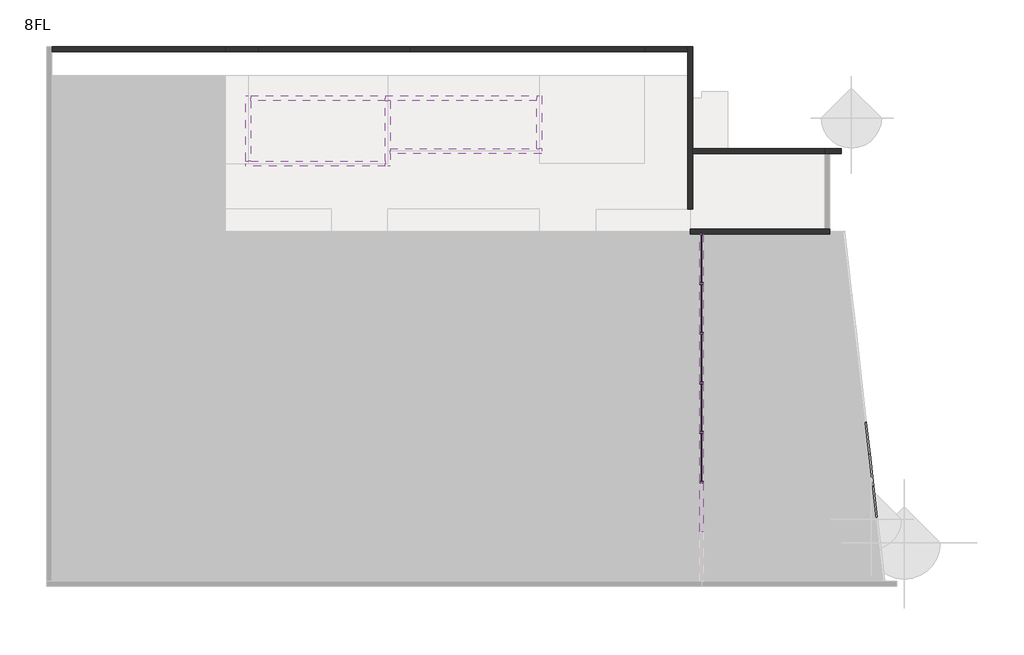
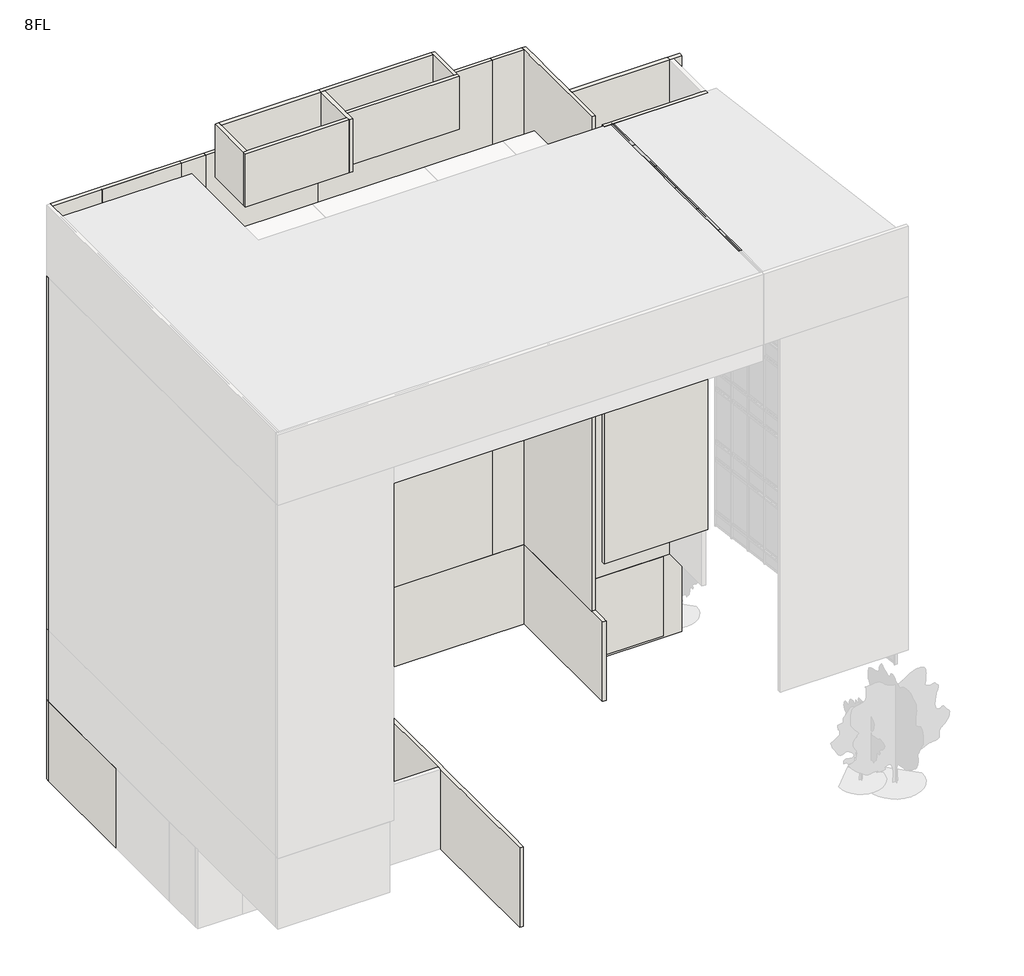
# One storey, part 2 of 4: 57 members, 26 walls, 17 plates.
"""IFC4 building model written with IfcOpenShell, lengths in millimetres."""

from ifc_helpers import new_model, si_unit, frame, origin, origin_with_axes, place, context, project, spatial, polyline, outline, extrude, faceted_brep, transform, mapped, element, save
from components import member_100x150_b54df6fd, member_25x150_6388a252, member_25x150_64c6ad17, member_25x150_181524d6, member_70x150_6224b0b0, member_70x150_d0359e29, member_70x150_07c10103, member_70x150_ebb47e88, member_70x150_8bab1bdf, plate_a5bdaeee, plate_4cdf4cda, plate_b29589f3, plate_a40ee780, plate_46ec0250, plate_b89069fe

model = new_model("IFC4")

# Units and contexts
model_context = context("Model", 3, world=origin())
ifc_project = project(units=[si_unit("LENGTHUNIT", "METRE", prefix="MILLI")], contexts=[model_context])

# Site, building, storey
site = spatial("IfcSite", under=ifc_project)
building = spatial("IfcBuilding", under=site)
storey = spatial("IfcBuildingStorey", under=building, Name="8FL", Elevation=28600.0)

# Members
placement = place(None, origin())
member_100x150_shape = member_100x150_b54df6fd(model_context)
element("IfcMember", 1, ObjectType="長方形のマリオン : 100x150", at=placement, inside=storey, context=model_context, shape_type="MappedRepresentation", body=[
    mapped(member_100x150_shape, transform((3817.2842702, 340.5959896, 24600.0), x_axis=(0.0, 0.0, 1.0), y_axis=(0.9935326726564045, 0.11354659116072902, 0.0), z_axis=(-0.11354659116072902, 0.9935326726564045, 0.0))),
])
element("IfcMember", 2, ObjectType="長方形のマリオン : 100x150", at=placement, inside=storey, context=model_context, shape_type="MappedRepresentation", body=[
    mapped(member_100x150_shape, transform((3672.8686858, 1604.2323532, 24600.0), x_axis=(0.0, 0.0, 1.0), y_axis=(0.9935326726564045, 0.11354659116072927, 0.0), z_axis=(-0.11354659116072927, 0.9935326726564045, 0.0))),
])
element("IfcMember", 3, ObjectType="長方形のマリオン : 100x150", at=placement, inside=storey, context=model_context, shape_type="MappedRepresentation", body=[
    mapped(member_100x150_shape, transform((3817.2842702, 340.5959896, 23600.0), x_axis=(0.0, 0.0, 1.0), y_axis=(0.9935326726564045, 0.11354659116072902, 0.0), z_axis=(-0.11354659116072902, 0.9935326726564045, 0.0))),
])
element("IfcMember", 4, ObjectType="長方形のマリオン : 100x150", at=placement, inside=storey, context=model_context, shape_type="MappedRepresentation", body=[
    mapped(member_100x150_shape, transform((3672.8686858, 1604.2323532, 23600.0), x_axis=(0.0, 0.0, 1.0), y_axis=(0.9935326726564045, 0.11354659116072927, 0.0), z_axis=(-0.11354659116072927, 0.9935326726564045, 0.0))),
])
element("IfcMember", 5, ObjectType="長方形のマリオン : 100x150", at=placement, inside=storey, context=model_context, shape_type="MappedRepresentation", body=[
    mapped(member_100x150_shape, transform((3817.2842702, 340.5959896, 20600.0), x_axis=(0.0, 0.0, 1.0), y_axis=(0.9935326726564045, 0.11354659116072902, 0.0), z_axis=(-0.11354659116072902, 0.9935326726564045, 0.0))),
])
element("IfcMember", 6, ObjectType="長方形のマリオン : 100x150", at=placement, inside=storey, context=model_context, shape_type="MappedRepresentation", body=[
    mapped(member_100x150_shape, transform((3672.8686858, 1604.2323532, 20600.0), x_axis=(0.0, 0.0, 1.0), y_axis=(0.9935326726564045, 0.11354659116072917, 0.0), z_axis=(-0.11354659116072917, 0.9935326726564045, 0.0))),
])
element("IfcMember", 7, ObjectType="長方形のマリオン : 100x150", at=placement, inside=storey, context=model_context, shape_type="MappedRepresentation", body=[
    mapped(member_100x150_shape, transform((3817.2842702, 340.5959896, 19600.0), x_axis=(0.0, 0.0, 1.0), y_axis=(0.9935326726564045, 0.11354659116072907, 0.0), z_axis=(-0.11354659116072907, 0.9935326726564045, 0.0))),
])
element("IfcMember", 8, ObjectType="長方形のマリオン : 100x150", at=placement, inside=storey, context=model_context, shape_type="MappedRepresentation", body=[
    mapped(member_100x150_shape, transform((3672.8686858, 1604.2323532, 19600.0), x_axis=(0.0, 0.0, 1.0), y_axis=(0.9935326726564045, 0.11354659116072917, 0.0), z_axis=(-0.11354659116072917, 0.9935326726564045, 0.0))),
])
element("IfcMember", 9, ObjectType="長方形のマリオン : 100x150", at=placement, inside=storey, context=model_context, shape_type="MappedRepresentation", body=[
    mapped(member_100x150_shape, transform((3817.2842702, 340.5959896, 16600.0), x_axis=(0.0, 0.0, 1.0), y_axis=(0.9935326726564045, 0.11354659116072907, 0.0), z_axis=(-0.11354659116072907, 0.9935326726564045, 0.0))),
])
element("IfcMember", 10, ObjectType="長方形のマリオン : 100x150", at=placement, inside=storey, context=model_context, shape_type="MappedRepresentation", body=[
    mapped(member_100x150_shape, transform((3672.8686858, 1604.2323532, 16600.0), x_axis=(0.0, 0.0, 1.0), y_axis=(0.9935326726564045, 0.11354659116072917, 0.0), z_axis=(-0.11354659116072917, 0.9935326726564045, 0.0))),
])
element("IfcMember", 11, ObjectType="長方形のマリオン : 100x150", at=placement, inside=storey, context=model_context, shape_type="MappedRepresentation", body=[
    mapped(member_100x150_shape, transform((3817.2842702, 340.5959896, 15600.0), x_axis=(0.0, 0.0, 1.0), y_axis=(0.9935326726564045, 0.11354659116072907, 0.0), z_axis=(-0.11354659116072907, 0.9935326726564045, 0.0))),
])
element("IfcMember", 12, ObjectType="長方形のマリオン : 100x150", at=placement, inside=storey, context=model_context, shape_type="MappedRepresentation", body=[
    mapped(member_100x150_shape, transform((3672.8686858, 1604.2323532, 15600.0), x_axis=(0.0, 0.0, 1.0), y_axis=(0.9935326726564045, 0.11354659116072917, 0.0), z_axis=(-0.11354659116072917, 0.9935326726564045, 0.0))),
])
element("IfcMember", 13, ObjectType="長方形のマリオン : 100x150", at=placement, inside=storey, context=model_context, shape_type="MappedRepresentation", body=[
    mapped(member_100x150_shape, transform((3817.2842702, 340.5959896, 12600.0), x_axis=(0.0, 0.0, 1.0), y_axis=(0.9935326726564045, 0.11354659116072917, 0.0), z_axis=(-0.11354659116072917, 0.9935326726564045, 0.0))),
])
element("IfcMember", 14, ObjectType="長方形のマリオン : 100x150", at=placement, inside=storey, context=model_context, shape_type="MappedRepresentation", body=[
    mapped(member_100x150_shape, transform((3672.8686858, 1604.2323532, 12600.0), x_axis=(0.0, 0.0, 1.0), y_axis=(0.9935326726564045, 0.11354659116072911, 0.0), z_axis=(-0.11354659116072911, 0.9935326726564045, 0.0))),
])
element("IfcMember", 15, ObjectType="長方形のマリオン : 100x150", at=placement, inside=storey, context=model_context, shape_type="MappedRepresentation", body=[
    mapped(member_100x150_shape, transform((3817.2842702, 340.5959896, 11600.0), x_axis=(0.0, 0.0, 1.0), y_axis=(0.9935326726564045, 0.11354659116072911, 0.0), z_axis=(-0.11354659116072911, 0.9935326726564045, 0.0))),
])
element("IfcMember", 16, ObjectType="長方形のマリオン : 100x150", at=placement, inside=storey, context=model_context, shape_type="MappedRepresentation", body=[
    mapped(member_100x150_shape, transform((3672.8686858, 1604.2323532, 11600.0), x_axis=(0.0, 0.0, 1.0), y_axis=(0.9935326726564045, 0.11354659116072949, 0.0), z_axis=(-0.11354659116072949, 0.9935326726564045, 0.0))),
])
element("IfcMember", 17, ObjectType="長方形のマリオン : 100x150", at=placement, inside=storey, context=model_context, shape_type="MappedRepresentation", body=[
    mapped(member_100x150_shape, transform((3817.2842702, 340.5959896, 27600.0), x_axis=(0.0, 0.0, 1.0), y_axis=(0.9935326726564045, 0.11354659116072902, 0.0), z_axis=(-0.11354659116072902, 0.9935326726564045, 0.0))),
])
element("IfcMember", 18, ObjectType="長方形のマリオン : 100x150", at=placement, inside=storey, context=model_context, shape_type="MappedRepresentation", body=[
    mapped(member_100x150_shape, transform((3672.8686858, 1604.2323532, 27600.0), x_axis=(0.0, 0.0, 1.0), y_axis=(0.9935326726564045, 0.11354659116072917, 0.0), z_axis=(-0.11354659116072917, 0.9935326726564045, 0.0))),
])
element("IfcMember", 19, ObjectType="長方形のマリオン : 100x150", at=placement, inside=storey, context=model_context, shape_type="MappedRepresentation", body=[
    mapped(member_100x150_shape, transform((3817.2842702, 340.5959896, 8600.0), x_axis=(0.0, 0.0, 1.0), y_axis=(0.9935326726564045, 0.11354659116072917, 0.0), z_axis=(-0.11354659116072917, 0.9935326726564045, 0.0))),
])
element("IfcMember", 20, ObjectType="長方形のマリオン : 100x150", at=placement, inside=storey, context=model_context, shape_type="MappedRepresentation", body=[
    mapped(member_100x150_shape, transform((3672.8686858, 1604.2323532, 8600.0), x_axis=(0.0, 0.0, 1.0), y_axis=(0.9935326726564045, 0.11354659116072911, 0.0), z_axis=(-0.11354659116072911, 0.9935326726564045, 0.0))),
])
member_25x150_shape = member_25x150_6388a252(model_context)
element("IfcMember", 21, ObjectType="長方形のマリオン : 25x150", at=placement, inside=storey, context=model_context, shape_type="MappedRepresentation", body=[
    mapped(member_25x150_shape, transform((3817.2842702, 340.5959896, 28600.0), x_axis=(0.0, 0.0, 1.0), y_axis=(0.9935326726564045, 0.11354659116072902, 0.0), z_axis=(-0.11354659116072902, 0.9935326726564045, 0.0))),
])
element("IfcMember", 22, ObjectType="長方形のマリオン : 25x150", at=placement, inside=storey, context=model_context, shape_type="MappedRepresentation", body=[
    mapped(member_25x150_shape, transform((3672.8686858, 1604.2323532, 28600.0), x_axis=(0.0, 0.0, 1.0), y_axis=(0.9935326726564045, 0.11354659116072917, 0.0), z_axis=(-0.11354659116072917, 0.9935326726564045, 0.0))),
])
element("IfcMember", 23, ObjectType="長方形のマリオン : 25x150", at=placement, inside=storey, context=model_context, shape_type="MappedRepresentation", body=[
    mapped(member_25x150_shape, transform((3528.4531013, 2867.8687169, 28600.0), x_axis=(0.0, 0.0, 1.0), y_axis=(0.9935326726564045, 0.11354659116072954, 0.0), z_axis=(-0.11354659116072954, 0.9935326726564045, 0.0))),
])
member_25x150_2_shape = member_25x150_64c6ad17(model_context)
element("IfcMember", 24, ObjectType="長方形のマリオン : 25x150", at=placement, inside=storey, context=model_context, shape_type="MappedRepresentation", body=[
    mapped(member_25x150_2_shape, transform((-2945.9784025, 10349.6868987, 28600.0), x_axis=(0.0, 1.0, 0.0), y_axis=(1.0, 0.0, 0.0), z_axis=(0.0, 0.0, -1.0))),
])
member_25x150_3_shape = member_25x150_181524d6(model_context)
element("IfcMember", 25, ObjectType="長方形のマリオン : 25x150", at=placement, inside=storey, context=model_context, shape_type="MappedRepresentation", body=[
    mapped(member_25x150_3_shape, transform((-2945.9784025, 10349.6868987, 32600.0), x_axis=(0.0, 0.0, 1.0), y_axis=(1.0, 0.0, 0.0), z_axis=(0.0, 1.0, 0.0))),
])
element("IfcMember", 26, ObjectType="長方形のマリオン : 25x150", at=placement, inside=storey, context=model_context, shape_type="MappedRepresentation", body=[
    mapped(member_25x150_3_shape, transform((-2945.9784025, 4435.4011844, 32600.0), x_axis=(0.0, 0.0, 1.0), y_axis=(1.0, 0.0, 0.0), z_axis=(0.0, 1.0, 0.0))),
])
element("IfcMember", 27, ObjectType="長方形のマリオン : 25x150", at=placement, inside=storey, context=model_context, shape_type="MappedRepresentation", body=[
    mapped(member_25x150_3_shape, transform((-2945.9784025, 6406.8297558, 32600.0), x_axis=(0.0, 0.0, 1.0), y_axis=(1.0, 0.0, 0.0), z_axis=(0.0, 1.0, 0.0))),
])
element("IfcMember", 28, ObjectType="長方形のマリオン : 25x150", at=placement, inside=storey, context=model_context, shape_type="MappedRepresentation", body=[
    mapped(member_25x150_3_shape, transform((-2945.9784025, 8378.2583273, 32600.0), x_axis=(0.0, 0.0, 1.0), y_axis=(1.0, 0.0, 0.0), z_axis=(0.0, 1.0, 0.0))),
])
element("IfcMember", 29, ObjectType="長方形のマリオン : 25x150", at=placement, inside=storey, context=model_context, shape_type="MappedRepresentation", body=[
    mapped(member_25x150_3_shape, transform((-2945.9784025, 2463.972613, 32600.0), x_axis=(0.0, 0.0, 1.0), y_axis=(1.0, 0.0, 0.0), z_axis=(0.0, 1.0, 0.0))),
])
element("IfcMember", 30, ObjectType="長方形のマリオン : 25x150", at=placement, inside=storey, context=model_context, shape_type="MappedRepresentation", body=[
    mapped(member_25x150_3_shape, transform((-2945.9784025, 492.5440416, 32600.0), x_axis=(0.0, 0.0, 1.0), y_axis=(1.0, 0.0, 0.0), z_axis=(0.0, 1.0, 0.0))),
])
member_70x150_shape = member_70x150_6224b0b0(model_context)
element("IfcMember", 31, ObjectType="長方形のマリオン : 70x150", at=placement, inside=storey, context=model_context, shape_type="MappedRepresentation", body=[
    mapped(member_70x150_shape, transform((-2945.9784025, 2463.972613, 28600.0), x_axis=(0.0, 1.0, 0.0), y_axis=(1.0, 0.0, 0.0), z_axis=(0.0, 0.0, -1.0))),
])
element("IfcMember", 32, ObjectType="長方形のマリオン : 70x150", at=placement, inside=storey, context=model_context, shape_type="MappedRepresentation", body=[
    mapped(member_70x150_shape, transform((-2945.9784025, 4435.4011844, 28600.0), x_axis=(0.0, 1.0, 0.0), y_axis=(1.0, 0.0, 0.0), z_axis=(0.0, 0.0, -1.0))),
])
element("IfcMember", 33, ObjectType="長方形のマリオン : 70x150", at=placement, inside=storey, context=model_context, shape_type="MappedRepresentation", body=[
    mapped(member_70x150_shape, transform((-2945.9784025, 6406.8297558, 28600.0), x_axis=(0.0, 1.0, 0.0), y_axis=(1.0, 0.0, 0.0), z_axis=(0.0, 0.0, -1.0))),
])
element("IfcMember", 34, ObjectType="長方形のマリオン : 70x150", at=placement, inside=storey, context=model_context, shape_type="MappedRepresentation", body=[
    mapped(member_70x150_shape, transform((-2945.9784025, 8378.2583273, 28600.0), x_axis=(0.0, 1.0, 0.0), y_axis=(1.0, 0.0, 0.0), z_axis=(0.0, 0.0, -1.0))),
])
element("IfcMember", 35, ObjectType="長方形のマリオン : 70x150", at=placement, inside=storey, context=model_context, shape_type="MappedRepresentation", body=[
    mapped(member_70x150_shape, transform((-2945.9784025, 492.5440416, 28600.0), x_axis=(0.0, 1.0, 0.0), y_axis=(1.0, 0.0, 0.0), z_axis=(0.0, 0.0, -1.0))),
])
member_70x150_2_shape = member_70x150_d0359e29(model_context)
element("IfcMember", 36, ObjectType="長方形のマリオン : 70x150", at=placement, inside=storey, context=model_context, shape_type="MappedRepresentation", body=[
    mapped(member_70x150_2_shape, transform((3672.8686858, 1604.2323532, 23650.0), x_axis=(-0.11354659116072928, 0.9935326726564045, 0.0), y_axis=(0.9935326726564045, 0.11354659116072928, 0.0), z_axis=(0.0, 0.0, -1.0))),
])
element("IfcMember", 37, ObjectType="長方形のマリオン : 70x150", at=placement, inside=storey, context=model_context, shape_type="MappedRepresentation", body=[
    mapped(member_70x150_2_shape, transform((3817.2842702, 340.5959896, 23650.0), x_axis=(-0.11354659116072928, 0.9935326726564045, 0.0), y_axis=(0.9935326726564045, 0.11354659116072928, 0.0), z_axis=(0.0, 0.0, -1.0))),
])
element("IfcMember", 38, ObjectType="長方形のマリオン : 70x150", at=placement, inside=storey, context=model_context, shape_type="MappedRepresentation", body=[
    mapped(member_70x150_2_shape, transform((3672.8686858, 1604.2323532, 19650.0), x_axis=(-0.11354659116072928, 0.9935326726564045, 0.0), y_axis=(0.9935326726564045, 0.11354659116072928, 0.0), z_axis=(0.0, 0.0, -1.0))),
])
element("IfcMember", 39, ObjectType="長方形のマリオン : 70x150", at=placement, inside=storey, context=model_context, shape_type="MappedRepresentation", body=[
    mapped(member_70x150_2_shape, transform((3817.2842702, 340.5959896, 19650.0), x_axis=(-0.11354659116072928, 0.9935326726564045, 0.0), y_axis=(0.9935326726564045, 0.11354659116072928, 0.0), z_axis=(0.0, 0.0, -1.0))),
])
element("IfcMember", 40, ObjectType="長方形のマリオン : 70x150", at=placement, inside=storey, context=model_context, shape_type="MappedRepresentation", body=[
    mapped(member_70x150_2_shape, transform((3672.8686858, 1604.2323532, 15650.0), x_axis=(-0.11354659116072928, 0.9935326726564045, 0.0), y_axis=(0.9935326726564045, 0.11354659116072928, 0.0), z_axis=(0.0, 0.0, -1.0))),
])
element("IfcMember", 41, ObjectType="長方形のマリオン : 70x150", at=placement, inside=storey, context=model_context, shape_type="MappedRepresentation", body=[
    mapped(member_70x150_2_shape, transform((3817.2842702, 340.5959896, 15650.0), x_axis=(-0.11354659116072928, 0.9935326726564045, 0.0), y_axis=(0.9935326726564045, 0.11354659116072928, 0.0), z_axis=(0.0, 0.0, -1.0))),
])
element("IfcMember", 42, ObjectType="長方形のマリオン : 70x150", at=placement, inside=storey, context=model_context, shape_type="MappedRepresentation", body=[
    mapped(member_70x150_2_shape, transform((3672.8686858, 1604.2323532, 11650.0), x_axis=(-0.11354659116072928, 0.9935326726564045, 0.0), y_axis=(0.9935326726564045, 0.11354659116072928, 0.0), z_axis=(0.0, 0.0, -1.0))),
])
element("IfcMember", 43, ObjectType="長方形のマリオン : 70x150", at=placement, inside=storey, context=model_context, shape_type="MappedRepresentation", body=[
    mapped(member_70x150_2_shape, transform((3817.2842702, 340.5959896, 11650.0), x_axis=(-0.11354659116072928, 0.9935326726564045, 0.0), y_axis=(0.9935326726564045, 0.11354659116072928, 0.0), z_axis=(0.0, 0.0, -1.0))),
])
member_70x150_3_shape = member_70x150_07c10103(model_context)
element("IfcMember", 44, ObjectType="長方形のマリオン : 70x150", at=placement, inside=storey, context=model_context, shape_type="MappedRepresentation", body=[
    mapped(member_70x150_3_shape, transform((3672.8686858, 1604.2323532, 24650.0), x_axis=(-0.11354659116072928, 0.9935326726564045, 0.0), y_axis=(0.9935326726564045, 0.11354659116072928, 0.0), z_axis=(0.0, 0.0, -1.0))),
])
element("IfcMember", 45, ObjectType="長方形のマリオン : 70x150", at=placement, inside=storey, context=model_context, shape_type="MappedRepresentation", body=[
    mapped(member_70x150_3_shape, transform((3817.2842702, 340.5959896, 24650.0), x_axis=(-0.11354659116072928, 0.9935326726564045, 0.0), y_axis=(0.9935326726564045, 0.11354659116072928, 0.0), z_axis=(0.0, 0.0, -1.0))),
])
element("IfcMember", 46, ObjectType="長方形のマリオン : 70x150", at=placement, inside=storey, context=model_context, shape_type="MappedRepresentation", body=[
    mapped(member_70x150_3_shape, transform((3672.8686858, 1604.2323532, 20650.0), x_axis=(-0.11354659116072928, 0.9935326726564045, 0.0), y_axis=(0.9935326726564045, 0.11354659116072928, 0.0), z_axis=(0.0, 0.0, -1.0))),
])
element("IfcMember", 47, ObjectType="長方形のマリオン : 70x150", at=placement, inside=storey, context=model_context, shape_type="MappedRepresentation", body=[
    mapped(member_70x150_3_shape, transform((3817.2842702, 340.5959896, 20650.0), x_axis=(-0.11354659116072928, 0.9935326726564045, 0.0), y_axis=(0.9935326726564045, 0.11354659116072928, 0.0), z_axis=(0.0, 0.0, -1.0))),
])
element("IfcMember", 48, ObjectType="長方形のマリオン : 70x150", at=placement, inside=storey, context=model_context, shape_type="MappedRepresentation", body=[
    mapped(member_70x150_3_shape, transform((3672.8686858, 1604.2323532, 16650.0), x_axis=(-0.11354659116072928, 0.9935326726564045, 0.0), y_axis=(0.9935326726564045, 0.11354659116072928, 0.0), z_axis=(0.0, 0.0, -1.0))),
])
element("IfcMember", 49, ObjectType="長方形のマリオン : 70x150", at=placement, inside=storey, context=model_context, shape_type="MappedRepresentation", body=[
    mapped(member_70x150_3_shape, transform((3817.2842702, 340.5959896, 16650.0), x_axis=(-0.11354659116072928, 0.9935326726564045, 0.0), y_axis=(0.9935326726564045, 0.11354659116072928, 0.0), z_axis=(0.0, 0.0, -1.0))),
])
element("IfcMember", 50, ObjectType="長方形のマリオン : 70x150", at=placement, inside=storey, context=model_context, shape_type="MappedRepresentation", body=[
    mapped(member_70x150_3_shape, transform((3672.8686858, 1604.2323532, 12650.0), x_axis=(-0.11354659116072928, 0.9935326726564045, 0.0), y_axis=(0.9935326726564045, 0.11354659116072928, 0.0), z_axis=(0.0, 0.0, -1.0))),
])
element("IfcMember", 51, ObjectType="長方形のマリオン : 70x150", at=placement, inside=storey, context=model_context, shape_type="MappedRepresentation", body=[
    mapped(member_70x150_3_shape, transform((3817.2842702, 340.5959896, 12650.0), x_axis=(-0.11354659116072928, 0.9935326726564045, 0.0), y_axis=(0.9935326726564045, 0.11354659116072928, 0.0), z_axis=(0.0, 0.0, -1.0))),
])
element("IfcMember", 52, ObjectType="長方形のマリオン : 70x150", at=placement, inside=storey, context=model_context, shape_type="MappedRepresentation", body=[
    mapped(member_70x150_3_shape, transform((3817.2842702, 340.5959896, 8650.0), x_axis=(-0.11354659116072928, 0.9935326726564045, 0.0), y_axis=(0.9935326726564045, 0.11354659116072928, 0.0), z_axis=(0.0, 0.0, -1.0))),
])
element("IfcMember", 53, ObjectType="長方形のマリオン : 70x150", at=placement, inside=storey, context=model_context, shape_type="MappedRepresentation", body=[
    mapped(member_70x150_3_shape, transform((3672.8686858, 1604.2323532, 8650.0), x_axis=(-0.11354659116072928, 0.9935326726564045, 0.0), y_axis=(0.9935326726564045, 0.11354659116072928, 0.0), z_axis=(0.0, 0.0, -1.0))),
])
member_70x150_4_shape = member_70x150_ebb47e88(model_context)
element("IfcMember", 54, ObjectType="長方形のマリオン : 70x150", at=placement, inside=storey, context=model_context, shape_type="MappedRepresentation", body=[
    mapped(member_70x150_4_shape, transform((3672.8686858, 1604.2323532, 7850.0), x_axis=(-0.11354659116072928, 0.9935326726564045, 0.0), y_axis=(0.9935326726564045, 0.11354659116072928, 0.0), z_axis=(0.0, 0.0, -1.0))),
])
element("IfcMember", 55, ObjectType="長方形のマリオン : 70x150", at=placement, inside=storey, context=model_context, shape_type="MappedRepresentation", body=[
    mapped(member_70x150_4_shape, transform((3817.2842702, 340.5959896, 7850.0), x_axis=(-0.11354659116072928, 0.9935326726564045, 0.0), y_axis=(0.9935326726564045, 0.11354659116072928, 0.0), z_axis=(0.0, 0.0, -1.0))),
])
member_70x150_5_shape = member_70x150_8bab1bdf(model_context)
element("IfcMember", 56, ObjectType="長方形のマリオン : 70x150", at=placement, inside=storey, context=model_context, shape_type="MappedRepresentation", body=[
    mapped(member_70x150_5_shape, transform((3672.8686858, 1604.2323532, 27650.0), x_axis=(-0.11354659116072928, 0.9935326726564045, 0.0), y_axis=(0.9935326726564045, 0.11354659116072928, 0.0), z_axis=(0.0, 0.0, -1.0))),
])
element("IfcMember", 57, ObjectType="長方形のマリオン : 70x150", at=placement, inside=storey, context=model_context, shape_type="MappedRepresentation", body=[
    mapped(member_70x150_5_shape, transform((3817.2842702, 340.5959896, 27650.0), x_axis=(-0.11354659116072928, 0.9935326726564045, 0.0), y_axis=(0.9935326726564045, 0.11354659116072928, 0.0), z_axis=(0.0, 0.0, -1.0))),
])

# Plates
plate_shape = plate_a5bdaeee(model_context)
element("IfcPlate", 58, ObjectType="r パネル FIX 下框付 : 框 H100", at=placement, inside=storey, context=model_context, shape_type="MappedRepresentation", body=[
    mapped(plate_shape, transform((-2945.9784025, 3449.6868987, 28600.0), x_axis=(0.0, 1.0, 0.0), y_axis=(-1.0, 0.0, 0.0), z_axis=(0.0, 0.0, 1.0))),
])
element("IfcPlate", 59, ObjectType="r パネル FIX 下框付 : 框 H100", at=placement, inside=storey, context=model_context, shape_type="MappedRepresentation", body=[
    mapped(plate_shape, transform((-2945.9784025, 5421.1154701, 28600.0), x_axis=(0.0, 1.0, 0.0), y_axis=(-1.0, 0.0, 0.0), z_axis=(0.0, 0.0, 1.0))),
])
element("IfcPlate", 60, ObjectType="r パネル FIX 下框付 : 框 H100", at=placement, inside=storey, context=model_context, shape_type="MappedRepresentation", body=[
    mapped(plate_shape, transform((-2945.9784025, 7392.5440416, 28600.0), x_axis=(0.0, 1.0, 0.0), y_axis=(-1.0, 0.0, 0.0), z_axis=(0.0, 0.0, 1.0))),
])
element("IfcPlate", 61, ObjectType="r パネル FIX 下框付 : 框 H100", at=placement, inside=storey, context=model_context, shape_type="MappedRepresentation", body=[
    mapped(plate_shape, transform((-2945.9784025, 1478.2583273, 28600.0), x_axis=(0.0, 1.0, 0.0), y_axis=(-1.0, 0.0, 0.0), z_axis=(0.0, 0.0, 1.0))),
])
plate_2_shape = plate_4cdf4cda(model_context)
element("IfcPlate", 62, ObjectType="r パネル FIX 下框付 : 框 H100", at=placement, inside=storey, context=model_context, shape_type="MappedRepresentation", body=[
    mapped(plate_2_shape, transform((-2945.9784025, 9368.972613, 28600.0), x_axis=(0.0, 1.0, 0.0), y_axis=(-1.0, 0.0, 0.0), z_axis=(0.0, 0.0, 1.0))),
])
plate_3_shape = plate_b29589f3(model_context)
element("IfcPlate", 63, ObjectType="r パネル FIX 下框付 : 框 H100", at=placement, inside=storey, context=model_context, shape_type="MappedRepresentation", body=[
    mapped(plate_3_shape, transform((3745.076478, 972.4141714, 23650.0), x_axis=(-0.11354659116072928, 0.9935326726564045, 0.0), y_axis=(-0.9935326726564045, -0.11354659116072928, 0.0), z_axis=(0.0, 0.0, 1.0))),
])
element("IfcPlate", 64, ObjectType="r パネル FIX 下框付 : 框 H100", at=placement, inside=storey, context=model_context, shape_type="MappedRepresentation", body=[
    mapped(plate_3_shape, transform((3745.076478, 972.4141714, 19650.0), x_axis=(-0.11354659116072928, 0.9935326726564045, 0.0), y_axis=(-0.9935326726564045, -0.11354659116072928, 0.0), z_axis=(0.0, 0.0, 1.0))),
])
element("IfcPlate", 65, ObjectType="r パネル FIX 下框付 : 框 H100", at=placement, inside=storey, context=model_context, shape_type="MappedRepresentation", body=[
    mapped(plate_3_shape, transform((3745.076478, 972.4141714, 15650.0), x_axis=(-0.11354659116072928, 0.9935326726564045, 0.0), y_axis=(-0.9935326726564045, -0.11354659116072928, 0.0), z_axis=(0.0, 0.0, 1.0))),
])
element("IfcPlate", 66, ObjectType="r パネル FIX 下框付 : 框 H100", at=placement, inside=storey, context=model_context, shape_type="MappedRepresentation", body=[
    mapped(plate_3_shape, transform((3745.076478, 972.4141714, 11650.0), x_axis=(-0.11354659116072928, 0.9935326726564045, 0.0), y_axis=(-0.9935326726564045, -0.11354659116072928, 0.0), z_axis=(0.0, 0.0, 1.0))),
])
plate_4_shape = plate_a40ee780(model_context)
element("IfcPlate", 67, ObjectType="r パネル FIX 下框付 : 框 H100", at=placement, inside=storey, context=model_context, shape_type="MappedRepresentation", body=[
    mapped(plate_4_shape, transform((3745.076478, 972.4141714, 24650.0), x_axis=(-0.11354659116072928, 0.9935326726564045, 0.0), y_axis=(-0.9935326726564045, -0.11354659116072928, 0.0), z_axis=(0.0, 0.0, 1.0))),
])
element("IfcPlate", 68, ObjectType="r パネル FIX 下框付 : 框 H100", at=placement, inside=storey, context=model_context, shape_type="MappedRepresentation", body=[
    mapped(plate_4_shape, transform((3745.076478, 972.4141714, 20650.0), x_axis=(-0.11354659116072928, 0.9935326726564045, 0.0), y_axis=(-0.9935326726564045, -0.11354659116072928, 0.0), z_axis=(0.0, 0.0, 1.0))),
])
element("IfcPlate", 69, ObjectType="r パネル FIX 下框付 : 框 H100", at=placement, inside=storey, context=model_context, shape_type="MappedRepresentation", body=[
    mapped(plate_4_shape, transform((3745.076478, 972.4141714, 16650.0), x_axis=(-0.11354659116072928, 0.9935326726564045, 0.0), y_axis=(-0.9935326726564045, -0.11354659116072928, 0.0), z_axis=(0.0, 0.0, 1.0))),
])
element("IfcPlate", 70, ObjectType="r パネル FIX 下框付 : 框 H100", at=placement, inside=storey, context=model_context, shape_type="MappedRepresentation", body=[
    mapped(plate_4_shape, transform((3745.076478, 972.4141714, 12650.0), x_axis=(-0.11354659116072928, 0.9935326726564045, 0.0), y_axis=(-0.9935326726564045, -0.11354659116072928, 0.0), z_axis=(0.0, 0.0, 1.0))),
])
element("IfcPlate", 71, ObjectType="r パネル FIX 下框付 : 框 H100", at=placement, inside=storey, context=model_context, shape_type="MappedRepresentation", body=[
    mapped(plate_4_shape, transform((3745.076478, 972.4141714, 8650.0), x_axis=(-0.11354659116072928, 0.9935326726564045, 0.0), y_axis=(-0.9935326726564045, -0.11354659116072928, 0.0), z_axis=(0.0, 0.0, 1.0))),
])
plate_5_shape = plate_46ec0250(model_context)
element("IfcPlate", 72, ObjectType="r パネル FIX 下框付 : 框 H100", at=placement, inside=storey, context=model_context, shape_type="MappedRepresentation", body=[
    mapped(plate_5_shape, transform((3600.6608936, 2236.0505351, 7850.0), x_axis=(-0.11354659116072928, 0.9935326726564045, 0.0), y_axis=(-0.9935326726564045, -0.11354659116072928, 0.0), z_axis=(0.0, 0.0, 1.0))),
])
element("IfcPlate", 73, ObjectType="r パネル FIX 下框付 : 框 H100", at=placement, inside=storey, context=model_context, shape_type="MappedRepresentation", body=[
    mapped(plate_5_shape, transform((3745.076478, 972.4141714, 7850.0), x_axis=(-0.11354659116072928, 0.9935326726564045, 0.0), y_axis=(-0.9935326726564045, -0.11354659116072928, 0.0), z_axis=(0.0, 0.0, 1.0))),
])
plate_6_shape = plate_b89069fe(model_context)
element("IfcPlate", 74, ObjectType="r パネル FIX 下框付 : 框 H100", at=placement, inside=storey, context=model_context, shape_type="MappedRepresentation", body=[
    mapped(plate_6_shape, transform((3745.076478, 972.4141714, 27650.0), x_axis=(-0.11354659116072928, 0.9935326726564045, 0.0), y_axis=(-0.9935326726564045, -0.11354659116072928, 0.0), z_axis=(0.0, 0.0, 1.0))),
])

# Walls
element("IfcWall", 75, ObjectType="標準200", at=placement, inside=storey, context=model_context, shape_type="Brep", body=[
    faceted_brep([(-3395.9784025, 10349.6868987, 7850.0), (2154.0215975, 10349.6868987, 7850.0), (2154.0215975, 10349.6868987, 32600.0), (-3395.9784025, 10349.6868987, 32600.0), (-3395.9784025, 10549.6868987, 7850.0), (-3395.9784025, 10549.6868987, 32600.0), (-2945.9784025, 10549.6868987, 32600.0), (1154.0215975, 10549.6868987, 32600.0), (1954.0215975, 10549.6868987, 32600.0), (2154.0215975, 10549.6868987, 32600.0), (2154.0215975, 10549.6868987, 7850.0), (2054.0215975, 10549.6868987, 7850.0), (1954.0215975, 10549.6868987, 7850.0), (1154.0215975, 10549.6868987, 7850.0), (-2945.9784025, 10549.6868987, 7850.0), (-3395.9784025, 10449.6868987, 7850.0), (-3395.9784025, 10449.6868987, 32600.0)], [[[0, 1, 2, 3]], [[4, 5, 6, 7, 8, 9, 10, 11, 12, 13, 14]], [[1, 0, 15, 4, 14, 13, 12, 11, 10]], [[3, 2, 9, 8, 7, 6, 5, 16]], [[0, 3, 16, 5, 4, 15]], [[2, 1, 10, 9]]]),
])
element("IfcWall", 76, ObjectType="標準200", at=placement, inside=storey, context=model_context, shape_type="SweptSolid", body=[
    extrude(outline(polyline([(-3295.9784025, 13749.6868987), (1954.0215975, 13749.6868987), (1954.0215975, 13549.6868987), (-3295.9784025, 13549.6868987), (-3295.9784025, 13749.6868987)])), frame((0.0, 0.0, 4600.0), z_axis=(0.0, 0.0, 1.0), x_axis=(1.0, 0.0, 0.0)), (0.0, 0.0, 1.0), 28000.0),
])
element("IfcWall", 77, ObjectType="標準200", at=placement, inside=storey, context=model_context, shape_type="Brep", body=[
    faceted_brep([(-3295.9784025, 11349.6868987, 4600.0), (-3295.9784025, 13549.6868987, 4600.0), (-3295.9784025, 13749.6868987, 4600.0), (-3295.9784025, 17799.6868987, 4600.0), (-3295.9784025, 17799.6868987, 32600.0), (-3295.9784025, 16649.6868987, 32600.0), (-3295.9784025, 15749.6868987, 32600.0), (-3295.9784025, 13749.6868987, 32600.0), (-3295.9784025, 13549.6868987, 32600.0), (-3295.9784025, 11349.6868987, 32600.0), (-3495.9784025, 11349.6868987, 4600.0), (-3495.9784025, 11349.6868987, 32600.0), (-3495.9784025, 15749.6868987, 32600.0), (-3495.9784025, 16649.6868987, 32600.0), (-3495.9784025, 17599.6868987, 32600.0), (-3495.9784025, 17799.6868987, 32600.0), (-3495.9784025, 17799.6868987, 4600.0), (-3495.9784025, 17599.6868987, 4600.0)], [[[0, 1, 2, 3, 4, 5, 6, 7, 8, 9]], [[10, 11, 12, 13, 14, 15, 16, 17]], [[3, 2, 1, 0, 10, 17, 16]], [[9, 8, 7, 6, 5, 4, 15, 14, 13, 12, 11]], [[0, 9, 11, 10]], [[4, 3, 16, 15]]]),
])
element("IfcWall", 78, ObjectType="標準200", at=placement, inside=storey, context=model_context, shape_type="SweptSolid", body=[
    extrude(outline(polyline([(-3295.9784025, 13749.6868987), (1604.0215975, 13749.6868987), (1604.0215975, 13549.6868987), (-3295.9784025, 13549.6868987), (-3295.9784025, 13749.6868987)])), frame((0.0, 0.0, 100.0), z_axis=(0.0, 0.0, 1.0), x_axis=(1.0, 0.0, 0.0)), (0.0, 0.0, 1.0), 4500.0),
])
element("IfcWall", 79, ObjectType="標準200", at=placement, inside=storey, context=model_context, shape_type="SweptSolid", body=[
    extrude(outline(polyline([(2604.0215975, 13549.6868987), (-3295.9784025, 13549.6868987), (-3295.9784025, 13749.6868987), (2604.0215975, 13749.6868987), (2604.0215975, 13549.6868987)])), origin_with_axes(), (0.0, 0.0, 1.0), 32600.0),
])
element("IfcWall", 80, ObjectType="標準200", at=placement, inside=storey, context=model_context, shape_type="Brep", body=[
    faceted_brep([(-3295.9784025, 10349.6868987, 100.0), (-3295.9784025, 10449.6868987, 100.0), (-3295.9784025, 10549.6868987, 100.0), (-3295.9784025, 11349.6868987, 100.0), (-3295.9784025, 13549.6868987, 100.0), (-3295.9784025, 13749.6868987, 100.0), (-3295.9784025, 15749.6868987, 100.0), (-3295.9784025, 16649.6868987, 100.0), (-3295.9784025, 17799.6868987, 100.0), (-3295.9784025, 17799.6868987, 4600.0), (-3295.9784025, 13749.6868987, 4600.0), (-3295.9784025, 13549.6868987, 4600.0), (-3295.9784025, 11349.6868987, 4600.0), (-3295.9784025, 10549.6868987, 4600.0), (-3295.9784025, 10449.6868987, 4600.0), (-3295.9784025, 10349.6868987, 4600.0), (-3495.9784025, 10349.6868987, 100.0), (-3495.9784025, 10349.6868987, 4600.0), (-3495.9784025, 10449.6868987, 4600.0), (-3495.9784025, 11349.6868987, 4600.0), (-3495.9784025, 17599.6868987, 4600.0), (-3495.9784025, 17799.6868987, 4600.0), (-3495.9784025, 17799.6868987, 100.0), (-3495.9784025, 17599.6868987, 100.0), (-3495.9784025, 16649.6868987, 100.0), (-3495.9784025, 15749.6868987, 100.0), (-3495.9784025, 11349.6868987, 100.0), (-3495.9784025, 10449.6868987, 100.0)], [[[0, 1, 2, 3, 4, 5, 6, 7, 8, 9, 10, 11, 12, 13, 14, 15]], [[16, 17, 18, 19, 20, 21, 22, 23, 24, 25, 26, 27]], [[8, 7, 6, 5, 4, 3, 2, 1, 0, 16, 27, 26, 25, 24, 23, 22]], [[15, 14, 13, 12, 11, 10, 9, 21, 20, 19, 18, 17]], [[9, 8, 22, 21]], [[0, 15, 17, 16]]]),
])
element("IfcWall", 81, ObjectType="標準200", at=placement, inside=storey, context=model_context, shape_type="Brep", body=[
    faceted_brep([(-3495.9784025, 17799.6868987, 100.0), (-14536.8075263, 17799.6868987, 100.0), (-14536.8075263, 17799.6868987, 4600.0), (-5195.9784025, 17799.6868987, 4600.0), (-3495.9784025, 17799.6868987, 4600.0), (-3495.9784025, 17599.6868987, 100.0), (-3495.9784025, 17599.6868987, 4600.0), (-5195.9784025, 17599.6868987, 4600.0), (-14536.8075263, 17599.6868987, 4600.0), (-14536.8075263, 17599.6868987, 100.0)], [[[0, 1, 2, 3, 4]], [[5, 6, 7, 8, 9]], [[1, 0, 5, 9]], [[2, 1, 9, 8]], [[4, 3, 2, 8, 7, 6]], [[0, 4, 6, 5]]]),
])
element("IfcWall", 82, ObjectType="標準200", at=placement, inside=storey, context=model_context, shape_type="SweptSolid", body=[
    extrude(outline(polyline([(-14536.8075263, 17799.6868987), (-5195.9784025, 17799.6868987), (-5195.9784025, 17599.6868987), (-14536.8075263, 17599.6868987), (-14536.8075263, 17799.6868987)])), frame((0.0, 0.0, 4600.0), z_axis=(0.0, 0.0, 1.0), x_axis=(1.0, 0.0, 0.0)), (0.0, 0.0, 1.0), 28000.0),
])
element("IfcWall", 83, ObjectType="標準200", at=placement, inside=storey, context=model_context, shape_type="SweptSolid", body=[
    extrude(outline(polyline([(-5195.9784025, 17799.6868987), (-3495.9784025, 17799.6868987), (-3495.9784025, 17599.6868987), (-5195.9784025, 17599.6868987), (-5195.9784025, 17799.6868987)])), frame((0.0, 0.0, 4600.0), z_axis=(0.0, 0.0, 1.0), x_axis=(1.0, 0.0, 0.0)), (0.0, 0.0, 1.0), 28000.0),
])
element("IfcWall", 84, ObjectType="標準200", at=placement, inside=storey, context=model_context, shape_type="Brep", body=[
    faceted_brep([(-14536.8075263, 17799.6868987, 32600.0), (-14536.8075263, 17799.6868987, 4600.0), (-14536.8075263, 17799.6868987, 100.0), (-14536.8075263, 17799.6868987, 0.0), (-20536.8075263, 17799.6868987, 0.0), (-20536.8075263, 17799.6868987, 32600.0), (-14536.8075263, 17599.6868987, 0.0), (-14536.8075263, 17599.6868987, 100.0), (-14536.8075263, 17599.6868987, 4600.0), (-14536.8075263, 17599.6868987, 32600.0), (-20536.8075263, 17599.6868987, 32600.0), (-20536.8075263, 17599.6868987, 0.0)], [[[0, 1, 2, 3, 4, 5]], [[6, 7, 8, 9, 10, 11]], [[4, 3, 6, 11]], [[5, 4, 11, 10]], [[0, 5, 10, 9]], [[0, 9, 8, 7, 6, 3, 2, 1]]]),
])
element("IfcWall", 85, ObjectType="標準200", at=placement, inside=storey, context=model_context, shape_type="Brep", body=[
    faceted_brep([(-20536.8075263, 17799.6868987, 0.0), (-26086.8075263, 17799.6868987, 0.0), (-26086.8075263, 17799.6868987, 100.0), (-26086.8075263, 17799.6868987, 4600.0), (-26086.8075263, 17799.6868987, 32600.0), (-20536.8075263, 17799.6868987, 32600.0), (-20536.8075263, 17599.6868987, 0.0), (-20536.8075263, 17599.6868987, 32600.0), (-26086.8075263, 17599.6868987, 32600.0), (-26086.8075263, 17599.6868987, 4600.0), (-26086.8075263, 17599.6868987, 100.0), (-26086.8075263, 17599.6868987, 0.0)], [[[0, 1, 2, 3, 4, 5]], [[6, 7, 8, 9, 10, 11]], [[1, 0, 6, 11]], [[5, 4, 8, 7]], [[0, 5, 7, 6]], [[1, 11, 10, 9, 8, 4, 3, 2]]]),
])
element("IfcWall", 86, ObjectType="標準200", at=placement, inside=storey, context=model_context, shape_type="SweptSolid", body=[
    extrude(outline(polyline([(-26545.9784025, 17799.6868987), (-26086.8075263, 17799.6868987), (-26086.8075263, 17599.6868987), (-26545.9784025, 17599.6868987), (-26545.9784025, 17799.6868987)])), frame((0.0, 0.0, 100.0), z_axis=(0.0, 0.0, 1.0), x_axis=(1.0, 0.0, 0.0)), (0.0, 0.0, 1.0), 4500.0),
])
element("IfcWall", 87, ObjectType="標準200", at=placement, inside=storey, context=model_context, shape_type="Brep", body=[
    faceted_brep([(-21845.9784025, 17799.6868987, 4600.0), (-28945.9784025, 17799.6868987, 4600.0), (-28945.9784025, 17799.6868987, 8600.0), (-21845.9784025, 17799.6868987, 8600.0), (-21845.9784025, 17599.6868987, 4600.0), (-21845.9784025, 17599.6868987, 8600.0), (-28745.9784025, 17599.6868987, 8600.0), (-28945.9784025, 17599.6868987, 8600.0), (-28945.9784025, 17599.6868987, 4600.0), (-28745.9784025, 17599.6868987, 4600.0)], [[[0, 1, 2, 3]], [[4, 5, 6, 7, 8, 9]], [[1, 0, 4, 9, 8]], [[3, 2, 7, 6, 5]], [[0, 3, 5, 4]], [[2, 1, 8, 7]]]),
])
element("IfcWall", 88, ObjectType="標準200", at=placement, inside=storey, context=model_context, shape_type="Brep", body=[
    faceted_brep([(-21845.9784025, 17799.6868987, 8600.0), (-28945.9784025, 17799.6868987, 8600.0), (-28945.9784025, 17799.6868987, 28600.0), (-28745.9784025, 17799.6868987, 28600.0), (-21845.9784025, 17799.6868987, 28600.0), (-21845.9784025, 17599.6868987, 8600.0), (-21845.9784025, 17599.6868987, 28600.0), (-28745.9784025, 17599.6868987, 28600.0), (-28945.9784025, 17599.6868987, 28600.0), (-28945.9784025, 17599.6868987, 8600.0), (-28745.9784025, 17599.6868987, 8600.0)], [[[0, 1, 2, 3, 4]], [[5, 6, 7, 8, 9, 10]], [[1, 0, 5, 10, 9]], [[4, 3, 2, 8, 7, 6]], [[0, 4, 6, 5]], [[2, 1, 9, 8]]]),
])
element("IfcWall", 89, ObjectType="標準200", at=placement, inside=storey, context=model_context, shape_type="SweptSolid", body=[
    extrude(outline(polyline([(-21845.9784025, 17599.6868987), (-26086.8075263, 17599.6868987), (-26086.8075263, 17799.6868987), (-21845.9784025, 17799.6868987), (-21845.9784025, 17599.6868987)])), frame((0.0, 0.0, 4600.0), z_axis=(0.0, 0.0, 1.0), x_axis=(1.0, 0.0, 0.0)), (0.0, 0.0, 1.0), 28000.0),
])
element("IfcWall", 90, ObjectType="標準200", at=placement, inside=storey, context=model_context, shape_type="Brep", body=[
    faceted_brep([(-26545.9784025, 17799.6868987, 100.0), (-28945.9784025, 17799.6868987, 100.0), (-28945.9784025, 17799.6868987, 4600.0), (-26545.9784025, 17799.6868987, 4600.0), (-26545.9784025, 17599.6868987, 100.0), (-26545.9784025, 17599.6868987, 4600.0), (-28745.9784025, 17599.6868987, 4600.0), (-28945.9784025, 17599.6868987, 4600.0), (-28945.9784025, 17599.6868987, 100.0), (-28745.9784025, 17599.6868987, 100.0)], [[[0, 1, 2, 3]], [[4, 5, 6, 7, 8, 9]], [[1, 0, 4, 9, 8]], [[3, 2, 7, 6, 5]], [[0, 3, 5, 4]], [[2, 1, 8, 7]]]),
])
element("IfcWall", 91, ObjectType="標準200", at=placement, inside=storey, context=model_context, shape_type="Brep", body=[
    faceted_brep([(-15945.9784025, 10449.6868987, 100.0), (-15945.9784025, 3999.6868987, 100.0), (-15945.9784025, 3799.6868987, 100.0), (-15945.9784025, -3550.3131013, 100.0), (-15945.9784025, -3550.3131013, 4600.0), (-15945.9784025, 3799.6868987, 4600.0), (-15945.9784025, 3999.6868987, 4600.0), (-15945.9784025, 10449.6868987, 4600.0), (-15745.9784025, 10449.6868987, 100.0), (-15745.9784025, 10449.6868987, 4600.0), (-15745.9784025, 4349.6868987, 4600.0), (-15745.9784025, 3449.6868987, 4600.0), (-15745.9784025, -2650.3131013, 4600.0), (-15745.9784025, -3550.3131013, 4600.0), (-15745.9784025, -3550.3131013, 100.0), (-15745.9784025, -2650.3131013, 100.0), (-15745.9784025, 3449.6868987, 100.0), (-15745.9784025, 4349.6868987, 100.0), (-15845.9784025, -3550.3131013, 100.0), (-15845.9784025, -3550.3131013, 4600.0)], [[[0, 1, 2, 3, 4, 5, 6, 7]], [[8, 9, 10, 11, 12, 13, 14, 15, 16, 17]], [[3, 2, 1, 0, 8, 17, 16, 15, 14, 18]], [[4, 3, 18, 14, 13, 19]], [[7, 6, 5, 4, 19, 13, 12, 11, 10, 9]], [[0, 7, 9, 8]]]),
])
element("IfcWall", 92, ObjectType="標準200", at=placement, inside=storey, context=model_context, shape_type="Brep", body=[
    faceted_brep([(-28945.9784025, 17599.6868987, 100.0), (-28945.9784025, 11349.6868987, 100.0), (-28945.9784025, 11349.6868987, 4600.0), (-28945.9784025, 17599.6868987, 4600.0), (-28745.9784025, 17599.6868987, 100.0), (-28745.9784025, 17599.6868987, 4600.0), (-28745.9784025, 11349.6868987, 4600.0), (-28745.9784025, 11349.6868987, 100.0), (-28745.9784025, 15749.6868987, 100.0), (-28745.9784025, 16649.6868987, 100.0)], [[[0, 1, 2, 3]], [[4, 5, 6, 7, 8, 9]], [[1, 0, 4, 9, 8, 7]], [[2, 1, 7, 6]], [[3, 2, 6, 5]], [[0, 3, 5, 4]]]),
])
element("IfcWall", 93, ObjectType="標準200", at=placement, inside=storey, context=model_context, shape_type="Brep", body=[
    faceted_brep([(-15295.9784025, 13549.6868987, 32600.0), (-9295.9784025, 13549.6868987, 32600.0), (-9295.9784025, 13549.6868987, 35600.0), (-15295.9784025, 13549.6868987, 35600.0), (-15295.9784025, 13749.6868987, 32600.0), (-15295.9784025, 13749.6868987, 35600.0), (-9495.9784025, 13749.6868987, 35600.0), (-9295.9784025, 13749.6868987, 35600.0), (-9295.9784025, 13749.6868987, 32600.0), (-9495.9784025, 13749.6868987, 32600.0)], [[[0, 1, 2, 3]], [[4, 5, 6, 7, 8, 9]], [[1, 0, 4, 9, 8]], [[3, 2, 7, 6, 5]], [[2, 1, 8, 7]], [[0, 3, 5, 4]]]),
])
element("IfcWall", 94, ObjectType="標準200", at=placement, inside=storey, context=model_context, shape_type="Brep", body=[
    faceted_brep([(-9295.9784025, 13749.6868987, 32600.0), (-9295.9784025, 15849.6868987, 32600.0), (-9295.9784025, 15849.6868987, 35600.0), (-9295.9784025, 13749.6868987, 35600.0), (-9495.9784025, 13749.6868987, 32600.0), (-9495.9784025, 13749.6868987, 35600.0), (-9495.9784025, 15649.6868987, 35600.0), (-9495.9784025, 15849.6868987, 35600.0), (-9495.9784025, 15849.6868987, 32600.0), (-9495.9784025, 15649.6868987, 32600.0)], [[[0, 1, 2, 3]], [[4, 5, 6, 7, 8, 9]], [[1, 0, 4, 9, 8]], [[3, 2, 7, 6, 5]], [[0, 3, 5, 4]], [[2, 1, 8, 7]]]),
])
element("IfcWall", 95, ObjectType="標準200", at=placement, inside=storey, context=model_context, shape_type="Brep", body=[
    faceted_brep([(-9495.9784025, 15849.6868987, 32600.0), (-15495.9784025, 15849.6868987, 32600.0), (-15495.9784025, 15849.6868987, 35600.0), (-9495.9784025, 15849.6868987, 35600.0), (-9495.9784025, 15649.6868987, 32600.0), (-9495.9784025, 15649.6868987, 35600.0), (-15295.9784025, 15649.6868987, 35600.0), (-15495.9784025, 15649.6868987, 35600.0), (-15495.9784025, 15649.6868987, 32600.0), (-15295.9784025, 15649.6868987, 32600.0)], [[[0, 1, 2, 3]], [[4, 5, 6, 7, 8, 9]], [[1, 0, 4, 9, 8]], [[3, 2, 7, 6, 5]], [[0, 3, 5, 4]], [[2, 1, 8, 7]]]),
])
element("IfcWall", 96, ObjectType="標準200", at=placement, inside=storey, context=model_context, shape_type="Brep", body=[
    faceted_brep([(-15295.9784025, 13049.6868987, 32600.0), (-15295.9784025, 13549.6868987, 32600.0), (-15295.9784025, 13749.6868987, 32600.0), (-15295.9784025, 15649.6868987, 32600.0), (-15295.9784025, 15649.6868987, 35600.0), (-15295.9784025, 13749.6868987, 35600.0), (-15295.9784025, 13549.6868987, 35600.0), (-15295.9784025, 13049.6868987, 35600.0), (-15495.9784025, 13049.6868987, 32600.0), (-15495.9784025, 13049.6868987, 35600.0), (-15495.9784025, 13249.6868987, 35600.0), (-15495.9784025, 15649.6868987, 35600.0), (-15495.9784025, 15649.6868987, 32600.0), (-15495.9784025, 13249.6868987, 32600.0)], [[[0, 1, 2, 3, 4, 5, 6, 7]], [[8, 9, 10, 11, 12, 13]], [[3, 2, 1, 0, 8, 13, 12]], [[7, 6, 5, 4, 11, 10, 9]], [[4, 3, 12, 11]], [[0, 7, 9, 8]]]),
])
element("IfcWall", 97, ObjectType="標準200", at=placement, inside=storey, context=model_context, shape_type="Brep", body=[
    faceted_brep([(-21045.9784025, 13049.6868987, 32600.0), (-15495.9784025, 13049.6868987, 32600.0), (-15495.9784025, 13049.6868987, 35600.0), (-21045.9784025, 13049.6868987, 35600.0), (-21045.9784025, 13249.6868987, 32600.0), (-21045.9784025, 13249.6868987, 35600.0), (-20845.9784025, 13249.6868987, 35600.0), (-15495.9784025, 13249.6868987, 35600.0), (-15495.9784025, 13249.6868987, 32600.0), (-20845.9784025, 13249.6868987, 32600.0)], [[[0, 1, 2, 3]], [[4, 5, 6, 7, 8, 9]], [[1, 0, 4, 9, 8]], [[3, 2, 7, 6, 5]], [[2, 1, 8, 7]], [[0, 3, 5, 4]]]),
])
element("IfcWall", 98, ObjectType="標準200", at=placement, inside=storey, context=model_context, shape_type="Brep", body=[
    faceted_brep([(-21045.9784025, 15849.6868987, 32600.0), (-21045.9784025, 13249.6868987, 32600.0), (-21045.9784025, 13249.6868987, 35600.0), (-21045.9784025, 15849.6868987, 35600.0), (-20845.9784025, 15849.6868987, 32600.0), (-20845.9784025, 15849.6868987, 35600.0), (-20845.9784025, 15649.6868987, 35600.0), (-20845.9784025, 13249.6868987, 35600.0), (-20845.9784025, 13249.6868987, 32600.0), (-20845.9784025, 15649.6868987, 32600.0)], [[[0, 1, 2, 3]], [[4, 5, 6, 7, 8, 9]], [[1, 0, 4, 9, 8]], [[3, 2, 7, 6, 5]], [[2, 1, 8, 7]], [[0, 3, 5, 4]]]),
])
element("IfcWall", 99, ObjectType="標準200", at=placement, inside=storey, context=model_context, shape_type="SweptSolid", body=[
    extrude(outline(polyline([(-20845.9784025, 15849.6868987), (-15495.9784025, 15849.6868987), (-15495.9784025, 15649.6868987), (-20845.9784025, 15649.6868987), (-20845.9784025, 15849.6868987)])), frame((0.0, 0.0, 32600.0), z_axis=(0.0, 0.0, 1.0), x_axis=(1.0, 0.0, 0.0)), (0.0, 0.0, 1.0), 3000.0),
])
element("IfcWall", 100, ObjectType="標準200", at=placement, inside=storey, context=model_context, shape_type="SweptSolid", body=[
    extrude(outline(polyline([(-28745.9784025, 17799.6868987), (-21845.9784025, 17799.6868987), (-21845.9784025, 17599.6868987), (-28745.9784025, 17599.6868987), (-28745.9784025, 17799.6868987)])), frame((0.0, 0.0, 28600.0), z_axis=(0.0, 0.0, 1.0), x_axis=(1.0, 0.0, 0.0)), (0.0, 0.0, 1.0), 4000.0),
])

save(model, "model.ifc")
